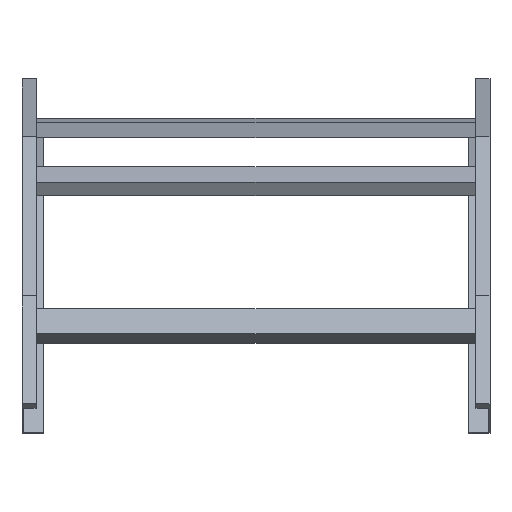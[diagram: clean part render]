
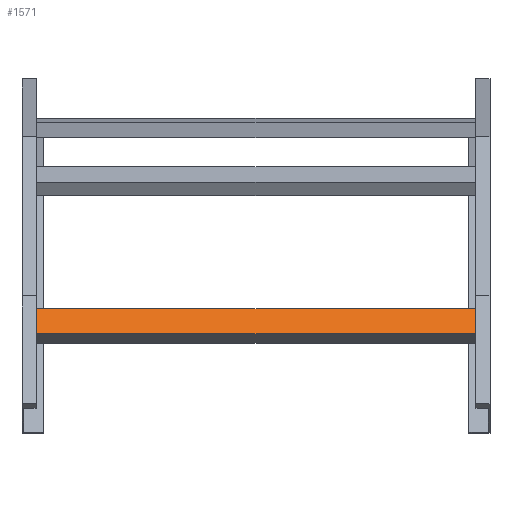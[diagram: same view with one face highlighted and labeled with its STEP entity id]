
A CAD part, top view. The second image highlights one B-rep face of the part: STEP entity #1571.
In plain terms, the highlighted planar face has unit normal (0, 0.609, 0.793) as drawn and (0, 1, 0) by its records, which use the part's own axes.
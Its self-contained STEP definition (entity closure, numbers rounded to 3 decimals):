
#20 = VERTEX_POINT ( 'NONE', #1350 ) ;
#40 = DIRECTION ( 'NONE',  ( 0., -1., 0. ) ) ;
#45 = CARTESIAN_POINT ( 'NONE',  ( -298., 20., 20.25 ) ) ;
#119 = EDGE_CURVE ( 'NONE', #493, #825, #342, .T. ) ;
#129 = CARTESIAN_POINT ( 'NONE',  ( -298., 20., -20.25 ) ) ;
#159 = VECTOR ( 'NONE', #316, 1000. ) ;
#173 = PLANE ( 'NONE',  #1635 ) ;
#174 = ORIENTED_EDGE ( 'NONE', *, *, #1135, .F. ) ;
#196 = LINE ( 'NONE', #45, #386 ) ;
#265 = VECTOR ( 'NONE', #404, 1000. ) ;
#316 = DIRECTION ( 'NONE',  ( -1., 0., 0. ) ) ;
#342 = LINE ( 'NONE', #412, #265 ) ;
#348 = EDGE_LOOP ( 'NONE', ( #427, #606, #174, #598 ) ) ;
#386 = VECTOR ( 'NONE', #695, 1000. ) ;
#404 = DIRECTION ( 'NONE',  ( -1., 0., 0. ) ) ;
#405 = CARTESIAN_POINT ( 'NONE',  ( -298., 20., 20.25 ) ) ;
#412 = CARTESIAN_POINT ( 'NONE',  ( 298., 20., -20.25 ) ) ;
#427 = ORIENTED_EDGE ( 'NONE', *, *, #686, .T. ) ;
#493 = VERTEX_POINT ( 'NONE', #734 ) ;
#578 = CARTESIAN_POINT ( 'NONE',  ( 298., 20., 20.25 ) ) ;
#598 = ORIENTED_EDGE ( 'NONE', *, *, #119, .T. ) ;
#606 = ORIENTED_EDGE ( 'NONE', *, *, #836, .F. ) ;
#657 = VERTEX_POINT ( 'NONE', #405 ) ;
#686 = EDGE_CURVE ( 'NONE', #825, #657, #196, .T. ) ;
#695 = DIRECTION ( 'NONE',  ( 0., 0., 1. ) ) ;
#734 = CARTESIAN_POINT ( 'NONE',  ( 298., 20., -20.25 ) ) ;
#825 = VERTEX_POINT ( 'NONE', #129 ) ;
#836 = EDGE_CURVE ( 'NONE', #20, #657, #911, .T. ) ;
#902 = VECTOR ( 'NONE', #1038, 1000. ) ;
#911 = LINE ( 'NONE', #578, #159 ) ;
#966 = DIRECTION ( 'NONE',  ( 0., 0., -1. ) ) ;
#1038 = DIRECTION ( 'NONE',  ( 0., 0., 1. ) ) ;
#1086 = CARTESIAN_POINT ( 'NONE',  ( 298., 20., 20.25 ) ) ;
#1135 = EDGE_CURVE ( 'NONE', #493, #20, #1175, .T. ) ;
#1175 = LINE ( 'NONE', #1459, #902 ) ;
#1350 = CARTESIAN_POINT ( 'NONE',  ( 298., 20., 20.25 ) ) ;
#1459 = CARTESIAN_POINT ( 'NONE',  ( 298., 20., 20.25 ) ) ;
#1479 = FACE_OUTER_BOUND ( 'NONE', #348, .T. ) ;
#1571 = ADVANCED_FACE ( 'NONE', ( #1479 ), #173, .F. ) ;
#1635 = AXIS2_PLACEMENT_3D ( 'NONE', #1086, #40, #966 ) ;
